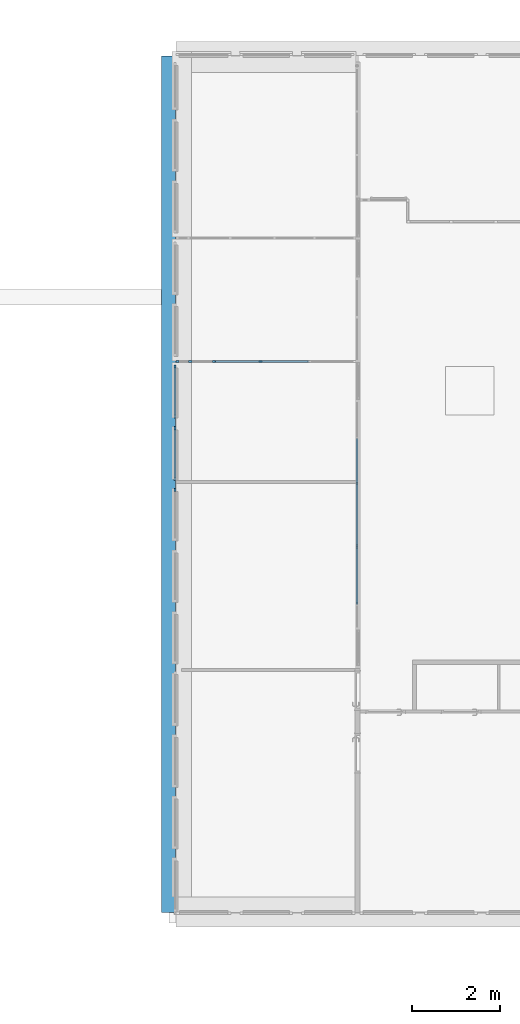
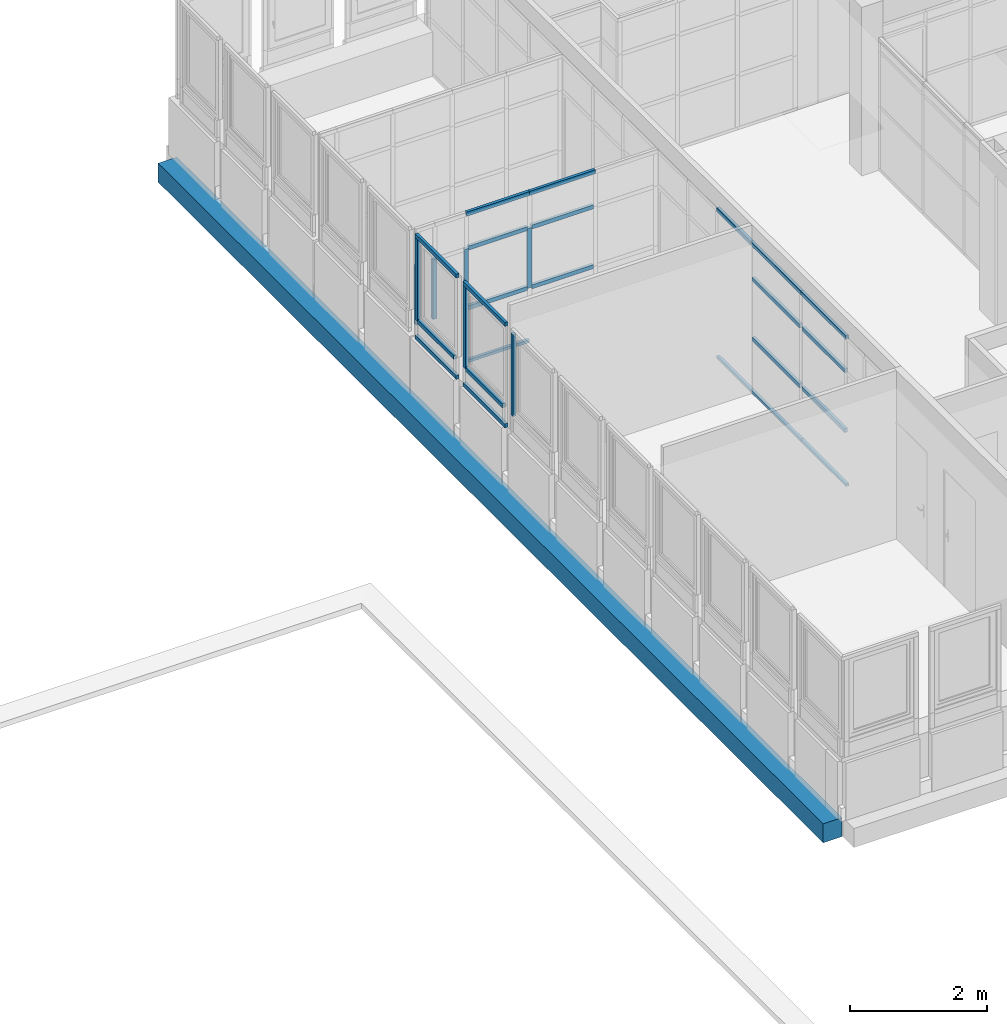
# One storey, part 6 of 97: 30 members, 1 beam, 5 elements without a shape of their own.
"""IFC4 building model written with IfcOpenShell, lengths in metres."""

from ifc_helpers import new_model, entity, si_unit, converted_unit, derived_unit, direction, frame, origin, place, context, subcontext, project, spatial, indexed_curve, outline, extrude, source, transform, mapped, material, type_object, type_shapes, element, aggregate, save


model = new_model("IFC4")

# Units and contexts
model_context = context("Model", 3, precision=1e-05, world=origin(), true_north=direction((6.12303176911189e-17, 1.0)))
body_context = subcontext(model_context, "Body", "Model", "MODEL_VIEW")
ifc_project = project(units=[si_unit("LENGTHUNIT", "METRE"), si_unit("AREAUNIT", "SQUARE_METRE"), si_unit("VOLUMEUNIT", "CUBIC_METRE"), converted_unit("PLANEANGLEUNIT", "DEGREE", entity("IfcRatioMeasure", 0.0174532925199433), si_unit("PLANEANGLEUNIT", "RADIAN"), dimensions=[0, 0, 0, 0, 0, 0, 0]), si_unit("MASSUNIT", "GRAM", prefix="KILO"), derived_unit("MASSDENSITYUNIT", [(si_unit("MASSUNIT", "GRAM", prefix="KILO"), 1), (si_unit("LENGTHUNIT", "METRE"), -3)]), derived_unit("MOMENTOFINERTIAUNIT", [(si_unit("LENGTHUNIT", "METRE"), 4)]), si_unit("TIMEUNIT", "SECOND"), si_unit("FREQUENCYUNIT", "HERTZ"), si_unit("THERMODYNAMICTEMPERATUREUNIT", "DEGREE_CELSIUS"), derived_unit("THERMALTRANSMITTANCEUNIT", [(si_unit("MASSUNIT", "GRAM", prefix="KILO"), 1), (si_unit("THERMODYNAMICTEMPERATUREUNIT", "KELVIN"), -1), (si_unit("TIMEUNIT", "SECOND"), -3)]), derived_unit("VOLUMETRICFLOWRATEUNIT", [(si_unit("LENGTHUNIT", "METRE"), 3), (si_unit("TIMEUNIT", "SECOND"), -1)]), si_unit("ELECTRICCURRENTUNIT", "AMPERE"), si_unit("ELECTRICVOLTAGEUNIT", "VOLT"), si_unit("POWERUNIT", "WATT"), si_unit("FORCEUNIT", "NEWTON", prefix="KILO"), si_unit("ILLUMINANCEUNIT", "LUX"), si_unit("LUMINOUSFLUXUNIT", "LUMEN"), si_unit("LUMINOUSINTENSITYUNIT", "CANDELA"), derived_unit("USERDEFINED", [(si_unit("MASSUNIT", "GRAM", prefix="KILO"), -1), (si_unit("LENGTHUNIT", "METRE"), -2), (si_unit("TIMEUNIT", "SECOND"), 3), (si_unit("LUMINOUSFLUXUNIT", "LUMEN"), 1)]), derived_unit("LINEARVELOCITYUNIT", [(si_unit("LENGTHUNIT", "METRE"), 1), (si_unit("TIMEUNIT", "SECOND"), -1)]), si_unit("PRESSUREUNIT", "PASCAL"), derived_unit("USERDEFINED", [(si_unit("LENGTHUNIT", "METRE"), -2), (si_unit("MASSUNIT", "GRAM", prefix="KILO"), 1), (si_unit("TIMEUNIT", "SECOND"), -2)]), derived_unit("LINEARFORCEUNIT", [(si_unit("MASSUNIT", "GRAM", prefix="KILO"), 1), (si_unit("LENGTHUNIT", "METRE"), 1), (si_unit("TIMEUNIT", "SECOND"), -2), (si_unit("LENGTHUNIT", "METRE"), -1)]), derived_unit("PLANARFORCEUNIT", [(si_unit("MASSUNIT", "GRAM", prefix="KILO"), 1), (si_unit("LENGTHUNIT", "METRE"), 1), (si_unit("TIMEUNIT", "SECOND"), -2), (si_unit("LENGTHUNIT", "METRE"), -2)])], contexts=[model_context])

# Site, building, storey
site_placement = place(None, origin())
site = spatial("IfcSite", under=ifc_project, at=site_placement, Name="Default", CompositionType="ELEMENT")
building_placement = place(site_placement, origin())
building = spatial("IfcBuilding", under=site, at=building_placement, Name="HOTEL CONSULAIRE BOULOGNE SUR MER", CompositionType="ELEMENT")
storey_placement = place(building_placement, frame((0.0, 0.0, 3.62152697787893)))
storey = spatial("IfcBuildingStorey", under=building, at=storey_placement, Name="Niveau 1", CompositionType="ELEMENT", Elevation=3.62152697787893)

# Curtain wall, members
curtain_wall_type = type_object("IfcCurtainWallType", Name="Mur-rideau:Simple panneau", PredefinedType="NOTDEFINED")
curtain_wall_1_placement = place(storey_placement, frame((0.0, 0.0, -3.62152697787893)))
curtain_wall_1 = element("IfcCurtainWall", 1, at=curtain_wall_1_placement, inside=storey, type_object=curtain_wall_type, Name="Mur-rideau:Simple panneau", ObjectType="Mur-rideau:Simple panneau", PredefinedType="NOTDEFINED")
ifc_material_1 = material(Name="PVC - Blanc", Category="Plastique")
member_type_1 = type_object("IfcMemberType", Name="Meneau rectangulaire:50 x 35", PredefinedType="MULLION", material=ifc_material_1)
shared_shape_1 = source(origin(), body_context, "Body", "SweptSolid", [
    extrude(outline(indexed_curve([(-0.025, -0.035), (0.025, -0.035), (0.025, 0.035), (-0.025, 0.035), (-0.025, -0.035)], self_intersect=False)), frame((-0.035, -0.025, -1.20000000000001), z_axis=(0.0, 0.0, 1.0), x_axis=(0.0, -1.0, 0.0)), (0.0, 0.0, 1.0), 1.20000000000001),
])
type_shapes(member_type_1, [shared_shape_1])
member_1_placement = place(storey_placement, frame((-13.7870998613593, -18.3114499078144, 0.791612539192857), z_axis=(0.0, -1.0, 0.0), x_axis=(0.0, 0.0, -1.0)))
member_1 = element("IfcMember", 2, at=member_1_placement, type_object=member_type_1, material=ifc_material_1, Name="Meneau rectangulaire:50 x 35", ObjectType="Meneau rectangulaire:50 x 35", PredefinedType="MULLION", context=body_context, shape_type="MappedRepresentation", body=[
    mapped(shared_shape_1, transform((0.0, 0.0, 0.0), scale=1.0)),
])
member_type_2 = type_object("IfcMemberType", Name="Meneau rectangulaire:50 x 35", PredefinedType="MULLION", material=ifc_material_1)
shared_shape_2 = source(origin(), body_context, "Body", "SweptSolid", [
    extrude(outline(indexed_curve([(-0.025, -0.035), (0.025, -0.035), (0.025, 0.035), (-0.025, 0.035), (-0.025, -0.035)], self_intersect=False)), frame((0.0, -0.025, -1.06000000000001), z_axis=(0.0, 0.0, 1.0), x_axis=(0.0, -1.0, 0.0)), (0.0, 0.0, 1.0), 1.06000000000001),
])
type_shapes(member_type_2, [shared_shape_2])
member_2_placement = place(storey_placement, frame((-13.7870998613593, -17.1814499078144, 1.13961253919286), z_axis=(0.0, 1.0, 0.0), x_axis=(0.0, 0.0, 1.0)))
member_2 = element("IfcMember", 3, at=member_2_placement, type_object=member_type_2, material=ifc_material_1, Name="Meneau rectangulaire:50 x 35", ObjectType="Meneau rectangulaire:50 x 35", PredefinedType="MULLION", context=body_context, shape_type="MappedRepresentation", body=[
    mapped(shared_shape_2, transform((0.0, 0.0, 0.0), scale=1.0)),
])

# Beam
ifc_material_2 = material(Name="Béton - Béton coulé sur place", Category="Béton")
beam_type = type_object("IfcBeamType", Name="Poutre rectangulaire - Béton:320x340", PredefinedType="BEAM", material=ifc_material_2)
shared_shape_3 = source(origin(), body_context, "Body", "SweptSolid", [
    extrude(outline(indexed_curve([(-0.127039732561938, -0.225140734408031), (0.192960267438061, -0.225140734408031), (0.192960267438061, 0.114859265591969), (-0.0659205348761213, 0.114859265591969), (-0.0659205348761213, 0.110281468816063), (-0.127039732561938, 0.110281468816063), (-0.127039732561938, -0.225140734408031)], self_intersect=False)), frame((-13.9310203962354, -29.5540671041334, 3.27624550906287), z_axis=(0.0, 1.0, 0.0), x_axis=(-1.0, 0.0, 0.0)), (0.0, 0.0, 1.0), 19.4694347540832),
])
type_shapes(beam_type, [shared_shape_3])
beam_placement = place(storey_placement, frame((0.0, 0.0, -3.62152697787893)))
element("IfcBeam", 4, at=beam_placement, inside=storey, type_object=beam_type, material=ifc_material_2, Name="Poutre rectangulaire - Béton:320x340", ObjectType="Poutre rectangulaire - Béton:320x340", PredefinedType="BEAM", context=body_context, shape_type="MappedRepresentation", body=[
    mapped(shared_shape_3, transform((0.0, 0.0, 0.0), scale=1.0)),
])

# Curtain wall, members
curtain_wall_2_placement = place(storey_placement, frame((0.0, 0.0, -3.62152697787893)))
curtain_wall_2 = element("IfcCurtainWall", 5, at=curtain_wall_2_placement, inside=storey, type_object=curtain_wall_type, Name="Mur-rideau:Simple panneau", ObjectType="Mur-rideau:Simple panneau", PredefinedType="NOTDEFINED")
member_type_3 = type_object("IfcMemberType", Name="Meneau rectangulaire:50 x 35", PredefinedType="MULLION", material=ifc_material_1)
shared_shape_4 = source(origin(), body_context, "Body", "SweptSolid", [
    extrude(outline(indexed_curve([(-0.025, -0.035), (0.025, -0.035), (0.025, 0.035), (-0.025, 0.035), (-0.025, -0.035)], self_intersect=False)), frame((-0.035, -0.025, -1.22588470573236), z_axis=(0.0, 0.0, 1.0), x_axis=(0.0, -1.0, 0.0)), (0.0, 0.0, 1.0), 1.22588470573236),
])
type_shapes(member_type_3, [shared_shape_4])
member_3_placement = place(storey_placement, frame((-13.7870998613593, -18.5114499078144, 2.67047302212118), z_axis=(0.0, 1.0, 0.0), x_axis=(0.0, 0.0, 1.0)))
member_3 = element("IfcMember", 6, at=member_3_placement, type_object=member_type_3, material=ifc_material_1, Name="Meneau rectangulaire:50 x 35", ObjectType="Meneau rectangulaire:50 x 35", PredefinedType="MULLION", context=body_context, shape_type="MappedRepresentation", body=[
    mapped(shared_shape_4, transform((0.0, 0.0, 0.0), scale=1.0)),
])
member_type_4 = type_object("IfcMemberType", Name="Meneau rectangulaire:50 x 35", PredefinedType="MULLION", material=ifc_material_1)
shared_shape_5 = source(origin(), body_context, "Body", "SweptSolid", [
    extrude(outline(indexed_curve([(-0.025, -0.035), (0.025, -0.035), (0.025, 0.035), (-0.025, 0.035), (-0.025, -0.035)], self_intersect=False)), frame((-0.035, -0.025, -1.22588470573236), z_axis=(0.0, 0.0, 1.0), x_axis=(0.0, -1.0, 0.0)), (0.0, 0.0, 1.0), 1.22588470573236),
])
type_shapes(member_type_4, [shared_shape_5])
member_4_placement = place(storey_placement, frame((-13.7870998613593, -19.7373346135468, 0.791612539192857), z_axis=(0.0, -1.0, 0.0), x_axis=(0.0, 0.0, -1.0)))
member_4 = element("IfcMember", 7, at=member_4_placement, type_object=member_type_4, material=ifc_material_1, Name="Meneau rectangulaire:50 x 35", ObjectType="Meneau rectangulaire:50 x 35", PredefinedType="MULLION", context=body_context, shape_type="MappedRepresentation", body=[
    mapped(shared_shape_5, transform((0.0, 0.0, 0.0), scale=1.0)),
])
member_type_5 = type_object("IfcMemberType", Name="Meneau rectangulaire:50 x 35", PredefinedType="MULLION", material=ifc_material_1)
shared_shape_6 = source(origin(), body_context, "Body", "SweptSolid", [
    extrude(outline(indexed_curve([(-0.025, -0.035), (0.025, -0.035), (0.025, 0.035), (-0.025, 0.035), (-0.025, -0.035)], self_intersect=False)), frame((0.0, -0.025, -1.08588470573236), z_axis=(0.0, 0.0, 1.0), x_axis=(0.0, -1.0, 0.0)), (0.0, 0.0, 1.0), 1.08588470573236),
])
type_shapes(member_type_5, [shared_shape_6])
member_5_placement = place(storey_placement, frame((-13.7870998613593, -18.5814499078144, 1.13961253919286), z_axis=(0.0, 1.0, 0.0), x_axis=(0.0, 0.0, 1.0)))
member_5 = element("IfcMember", 8, at=member_5_placement, type_object=member_type_5, material=ifc_material_1, Name="Meneau rectangulaire:50 x 35", ObjectType="Meneau rectangulaire:50 x 35", PredefinedType="MULLION", context=body_context, shape_type="MappedRepresentation", body=[
    mapped(shared_shape_6, transform((0.0, 0.0, 0.0), scale=1.0)),
])
member_type_6 = type_object("IfcMemberType", Name="Meneau rectangulaire:50 x 35", PredefinedType="MULLION", material=ifc_material_1)
shared_shape_7 = source(origin(), body_context, "Body", "SweptSolid", [
    extrude(outline(indexed_curve([(-0.025, -0.035), (0.025, -0.035), (0.025, 0.035), (-0.025, 0.035), (-0.025, -0.035)], self_intersect=False)), frame((-0.035, -0.025, -1.46086048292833), z_axis=(0.0, 0.0, 1.0), x_axis=(0.0, -1.0, 0.0)), (0.0, 0.0, 1.0), 1.46086048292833),
])
type_shapes(member_type_6, [shared_shape_7])
member_6_placement = place(storey_placement, frame((-13.7870998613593, -18.5114499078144, 1.13961253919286), z_axis=(0.0, 0.0, -1.0), x_axis=(0.0, 1.0, 0.0)))
member_6 = element("IfcMember", 9, at=member_6_placement, type_object=member_type_6, material=ifc_material_1, Name="Meneau rectangulaire:50 x 35", ObjectType="Meneau rectangulaire:50 x 35", PredefinedType="MULLION", context=body_context, shape_type="MappedRepresentation", body=[
    mapped(shared_shape_7, transform((0.0, 0.0, 0.0), scale=1.0)),
])
aggregate(curtain_wall_2, [member_3, member_4, member_5, member_6])

# Member
member_7_placement = place(storey_placement, frame((-13.7870998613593, -17.1114499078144, 1.13961253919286), z_axis=(0.0, 0.0, -1.0), x_axis=(0.0, 1.0, 0.0)))
member_7 = element("IfcMember", 10, at=member_7_placement, type_object=member_type_6, material=ifc_material_1, Name="Meneau rectangulaire:50 x 35", ObjectType="Meneau rectangulaire:50 x 35", PredefinedType="MULLION", context=body_context, shape_type="MappedRepresentation", body=[
    mapped(shared_shape_7, transform((0.0, 0.0, 0.0), scale=1.0)),
])

# Curtain wall, member
curtain_wall_3_placement = place(storey_placement, frame((0.0, 0.0, -3.62152697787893)))
curtain_wall_3 = element("IfcCurtainWall", 11, at=curtain_wall_3_placement, inside=storey, type_object=curtain_wall_type, Name="Mur-rideau:Simple panneau", ObjectType="Mur-rideau:Simple panneau", PredefinedType="NOTDEFINED")
member_8_placement = place(storey_placement, frame((-13.7870998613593, -19.9114499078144, 1.13961253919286), z_axis=(0.0, 0.0, -1.0), x_axis=(0.0, 1.0, 0.0)))
member_8 = element("IfcMember", 12, at=member_8_placement, type_object=member_type_6, material=ifc_material_1, Name="Meneau rectangulaire:50 x 35", ObjectType="Meneau rectangulaire:50 x 35", PredefinedType="MULLION", context=body_context, shape_type="MappedRepresentation", body=[
    mapped(shared_shape_7, transform((0.0, 0.0, 0.0), scale=1.0)),
])
aggregate(curtain_wall_3, [member_8])

# Member
member_type_7 = type_object("IfcMemberType", Name="Meneau rectangulaire:50 x 35", PredefinedType="MULLION", material=ifc_material_1)
shared_shape_8 = source(origin(), body_context, "Body", "SweptSolid", [
    extrude(outline(indexed_curve([(-0.025, -0.035), (0.025, -0.035), (0.025, 0.035), (-0.025, 0.035), (-0.025, -0.035)], self_intersect=False)), frame((-0.035, -0.025, -1.20000000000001), z_axis=(0.0, 0.0, 1.0), x_axis=(0.0, -1.0, 0.0)), (0.0, 0.0, 1.0), 1.20000000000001),
])
type_shapes(member_type_7, [shared_shape_8])
member_9_placement = place(storey_placement, frame((-13.7870998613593, -17.1114499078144, 2.67047302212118), z_axis=(0.0, 1.0, 0.0), x_axis=(0.0, 0.0, 1.0)))
member_9 = element("IfcMember", 13, at=member_9_placement, type_object=member_type_7, material=ifc_material_1, Name="Meneau rectangulaire:50 x 35", ObjectType="Meneau rectangulaire:50 x 35", PredefinedType="MULLION", context=body_context, shape_type="MappedRepresentation", body=[
    mapped(shared_shape_8, transform((0.0, 0.0, 0.0), scale=1.0)),
])

aggregate(curtain_wall_1, [member_9, member_1, member_2, member_7])

# Curtain wall, members
curtain_wall_4_placement = place(storey_placement, frame((0.0, 0.0, -3.62152697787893)))
curtain_wall_4 = element("IfcCurtainWall", 14, at=curtain_wall_4_placement, inside=storey, type_object=curtain_wall_type, Name="Mur-rideau:Simple panneau", ObjectType="Mur-rideau:Simple panneau", PredefinedType="NOTDEFINED")
ifc_material_3 = material(Name="PVC, souple", Category="Plastique")
member_type_8 = type_object("IfcMemberType", Name="Meneau rectangulaire:50 x 35 pvc gris", PredefinedType="MULLION", material=ifc_material_3)
shared_shape_9 = source(origin(), body_context, "Body", "SweptSolid", [
    extrude(outline(indexed_curve([(-0.025, -0.035), (0.025, -0.035), (0.025, 0.035), (-0.025, 0.035), (-0.025, -0.035)], self_intersect=False)), frame((0.0, -0.025, -1.39), z_axis=(0.0, 0.0, 1.0), x_axis=(0.0, -1.0, 0.0)), (0.0, 0.0, 1.0), 1.39),
])
type_shapes(member_type_8, [shared_shape_9])
member_10_placement = place(storey_placement, frame((-9.64962464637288, -19.8102596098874, 0.976960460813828), z_axis=(0.0, 1.0, 0.0), x_axis=(0.0, 0.0, 1.0)))
member_10 = element("IfcMember", 15, at=member_10_placement, type_object=member_type_8, material=ifc_material_3, Name="Meneau rectangulaire:50 x 35 pvc gris", ObjectType="Meneau rectangulaire:50 x 35 pvc gris", PredefinedType="MULLION", context=body_context, shape_type="MappedRepresentation", body=[
    mapped(shared_shape_9, transform((0.0, 0.0, 0.0), scale=1.0)),
])
member_11_placement = place(storey_placement, frame((-9.64962464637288, -19.8102596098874, 2.04596046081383), z_axis=(0.0, 1.0, 0.0), x_axis=(0.0, 0.0, 1.0)))
member_11 = element("IfcMember", 16, at=member_11_placement, type_object=member_type_8, material=ifc_material_3, Name="Meneau rectangulaire:50 x 35 pvc gris", ObjectType="Meneau rectangulaire:50 x 35 pvc gris", PredefinedType="MULLION", context=body_context, shape_type="MappedRepresentation", body=[
    mapped(shared_shape_9, transform((0.0, 0.0, 0.0), scale=1.0)),
])
member_type_9 = type_object("IfcMemberType", Name="Meneau rectangulaire:50 x 35 pvc gris", PredefinedType="MULLION", material=ifc_material_3)
shared_shape_10 = source(origin(), body_context, "Body", "SweptSolid", [
    extrude(outline(indexed_curve([(-0.025, -0.035), (0.025, -0.035), (0.025, 0.035), (-0.025, 0.035), (-0.025, -0.035)], self_intersect=False)), frame((0.0, -0.025, -1.25), z_axis=(0.0, 0.0, 1.0), x_axis=(0.0, -1.0, 0.0)), (0.0, 0.0, 1.0), 1.25),
])
type_shapes(member_type_9, [shared_shape_10])
member_12_placement = place(storey_placement, frame((-9.64962464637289, -21.2702596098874, 0.976960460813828), z_axis=(0.0, 1.0, 0.0), x_axis=(0.0, 0.0, 1.0)))
member_12 = element("IfcMember", 17, at=member_12_placement, type_object=member_type_9, material=ifc_material_3, Name="Meneau rectangulaire:50 x 35 pvc gris", ObjectType="Meneau rectangulaire:50 x 35 pvc gris", PredefinedType="MULLION", context=body_context, shape_type="MappedRepresentation", body=[
    mapped(shared_shape_10, transform((0.0, 0.0, 0.0), scale=1.0)),
])
member_13_placement = place(storey_placement, frame((-9.64962464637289, -21.2702596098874, 2.04596046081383), z_axis=(0.0, 1.0, 0.0), x_axis=(0.0, 0.0, 1.0)))
member_13 = element("IfcMember", 18, at=member_13_placement, type_object=member_type_9, material=ifc_material_3, Name="Meneau rectangulaire:50 x 35 pvc gris", ObjectType="Meneau rectangulaire:50 x 35 pvc gris", PredefinedType="MULLION", context=body_context, shape_type="MappedRepresentation", body=[
    mapped(shared_shape_10, transform((0.0, 0.0, 0.0), scale=1.0)),
])
member_type_10 = type_object("IfcMemberType", Name="Meneau rectangulaire:50 x 35 pvc gris", PredefinedType="MULLION", material=ifc_material_3)
shared_shape_11 = source(origin(), body_context, "Body", "SweptSolid", [
    extrude(outline(indexed_curve([(-0.025, -0.035), (0.025, -0.035), (0.025, 0.035), (-0.025, 0.035), (-0.025, -0.035)], self_intersect=False)), frame((-0.035, -0.025, -1.0), z_axis=(0.0, 0.0, 1.0), x_axis=(0.0, -1.0, 0.0)), (0.0, 0.0, 1.0), 0.999999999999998),
])
type_shapes(member_type_10, [shared_shape_11])
member_14_placement = place(storey_placement, frame((-9.64962464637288, -18.7752596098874, 2.69696046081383), z_axis=(0.0, 1.0, 0.0), x_axis=(0.0, 0.0, 1.0)))
member_14 = element("IfcMember", 19, at=member_14_placement, type_object=member_type_10, material=ifc_material_3, Name="Meneau rectangulaire:50 x 35 pvc gris", ObjectType="Meneau rectangulaire:50 x 35 pvc gris", PredefinedType="MULLION", context=body_context, shape_type="MappedRepresentation", body=[
    mapped(shared_shape_11, transform((0.0, 0.0, 0.0), scale=1.0)),
])
member_type_11 = type_object("IfcMemberType", Name="Meneau rectangulaire:50 x 35 pvc gris", PredefinedType="MULLION", material=ifc_material_3)
shared_shape_12 = source(origin(), body_context, "Body", "SweptSolid", [
    extrude(outline(indexed_curve([(-0.025, -0.035), (0.025, -0.035), (0.025, 0.035), (-0.025, 0.035), (-0.025, -0.035)], self_intersect=False)), frame((-0.035, -0.025, -1.46), z_axis=(0.0, 0.0, 1.0), x_axis=(0.0, -1.0, 0.0)), (0.0, 0.0, 1.0), 1.46),
])
type_shapes(member_type_11, [shared_shape_12])
member_15_placement = place(storey_placement, frame((-9.64962464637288, -19.7752596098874, 2.69696046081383), z_axis=(0.0, 1.0, 0.0), x_axis=(0.0, 0.0, 1.0)))
member_15 = element("IfcMember", 20, at=member_15_placement, type_object=member_type_11, material=ifc_material_3, Name="Meneau rectangulaire:50 x 35 pvc gris", ObjectType="Meneau rectangulaire:50 x 35 pvc gris", PredefinedType="MULLION", context=body_context, shape_type="MappedRepresentation", body=[
    mapped(shared_shape_12, transform((0.0, 0.0, 0.0), scale=1.0)),
])
member_type_12 = type_object("IfcMemberType", Name="Meneau rectangulaire:50 x 35 pvc gris", PredefinedType="MULLION", material=ifc_material_3)
shared_shape_13 = source(origin(), body_context, "Body", "SweptSolid", [
    extrude(outline(indexed_curve([(-0.025, -0.035), (0.025, -0.035), (0.025, 0.035), (-0.025, 0.035), (-0.025, -0.035)], self_intersect=False)), frame((-0.035, -0.025, -1.32), z_axis=(0.0, 0.0, 1.0), x_axis=(0.0, -1.0, 0.0)), (0.0, 0.0, 1.0), 1.32),
])
type_shapes(member_type_12, [shared_shape_13])
member_16_placement = place(storey_placement, frame((-9.64962464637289, -21.2352596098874, 2.69696046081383), z_axis=(0.0, 1.0, 0.0), x_axis=(0.0, 0.0, 1.0)))
member_16 = element("IfcMember", 21, at=member_16_placement, type_object=member_type_12, material=ifc_material_3, Name="Meneau rectangulaire:50 x 35 pvc gris", ObjectType="Meneau rectangulaire:50 x 35 pvc gris", PredefinedType="MULLION", context=body_context, shape_type="MappedRepresentation", body=[
    mapped(shared_shape_13, transform((0.0, 0.0, 0.0), scale=1.0)),
])
member_type_13 = type_object("IfcMemberType", Name="Meneau rectangulaire:50 x 25mm pvc gris", PredefinedType="MULLION", material=ifc_material_3)
shared_shape_14 = source(origin(), body_context, "Body", "SweptSolid", [
    extrude(outline(indexed_curve([(-0.025, -0.025), (0.025, -0.025), (0.025, 0.025), (-0.025, 0.025), (-0.025, -0.025)], self_intersect=False)), frame((-0.025, -0.025, -1.32), z_axis=(0.0, 0.0, 1.0), x_axis=(0.0, -1.0, 0.0)), (0.0, 0.0, 1.0), 1.32),
])
type_shapes(member_type_13, [shared_shape_14])
member_17_placement = place(storey_placement, frame((-9.64962464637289, -22.5552596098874, 0.0), z_axis=(0.0, -1.0, 0.0), x_axis=(0.0, 0.0, -1.0)))
member_17 = element("IfcMember", 22, at=member_17_placement, type_object=member_type_13, material=ifc_material_3, Name="Meneau rectangulaire:50 x 25mm pvc gris", ObjectType="Meneau rectangulaire:50 x 25mm pvc gris", PredefinedType="MULLION", context=body_context, shape_type="MappedRepresentation", body=[
    mapped(shared_shape_14, transform((0.0, 0.0, 0.0), scale=1.0)),
])
member_type_14 = type_object("IfcMemberType", Name="Meneau rectangulaire:50 x 25mm pvc gris", PredefinedType="MULLION", material=ifc_material_3)
shared_shape_15 = source(origin(), body_context, "Body", "SweptSolid", [
    extrude(outline(indexed_curve([(-0.025, -0.025), (0.025, -0.025), (0.025, 0.025), (-0.025, 0.025), (-0.025, -0.025)], self_intersect=False)), frame((-0.025, -0.025, -1.46), z_axis=(0.0, 0.0, 1.0), x_axis=(0.0, -1.0, 0.0)), (0.0, 0.0, 1.0), 1.46),
])
type_shapes(member_type_14, [shared_shape_15])
member_18_placement = place(storey_placement, frame((-9.64962464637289, -21.2352596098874, 0.0), z_axis=(0.0, -1.0, 0.0), x_axis=(0.0, 0.0, -1.0)))
member_18 = element("IfcMember", 23, at=member_18_placement, type_object=member_type_14, material=ifc_material_3, Name="Meneau rectangulaire:50 x 25mm pvc gris", ObjectType="Meneau rectangulaire:50 x 25mm pvc gris", PredefinedType="MULLION", context=body_context, shape_type="MappedRepresentation", body=[
    mapped(shared_shape_15, transform((0.0, 0.0, 0.0), scale=1.0)),
])
member_type_15 = type_object("IfcMemberType", Name="Meneau rectangulaire:50 x 25mm pvc gris", PredefinedType="MULLION", material=ifc_material_3)
shared_shape_16 = source(origin(), body_context, "Body", "SweptSolid", [
    extrude(outline(indexed_curve([(-0.025, -0.025), (0.025, -0.025), (0.025, 0.025), (-0.025, 0.025), (-0.025, -0.025)], self_intersect=False)), frame((-0.025, -0.025, -1.0), z_axis=(0.0, 0.0, 1.0), x_axis=(0.0, -1.0, 0.0)), (0.0, 0.0, 1.0), 0.999999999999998),
])
type_shapes(member_type_15, [shared_shape_16])
member_19_placement = place(storey_placement, frame((-9.64962464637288, -19.7752596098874, 0.0), z_axis=(0.0, -1.0, 0.0), x_axis=(0.0, 0.0, -1.0)))
member_19 = element("IfcMember", 24, at=member_19_placement, type_object=member_type_15, material=ifc_material_3, Name="Meneau rectangulaire:50 x 25mm pvc gris", ObjectType="Meneau rectangulaire:50 x 25mm pvc gris", PredefinedType="MULLION", context=body_context, shape_type="MappedRepresentation", body=[
    mapped(shared_shape_16, transform((0.0, 0.0, 0.0), scale=1.0)),
])
aggregate(curtain_wall_4, [member_10, member_12, member_11, member_13, member_14, member_15, member_16, member_17, member_18, member_19])

curtain_wall_5_placement = place(storey_placement, frame((0.0, 0.0, -3.62152697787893)))
curtain_wall_5 = element("IfcCurtainWall", 25, at=curtain_wall_5_placement, inside=storey, type_object=curtain_wall_type, Name="Mur-rideau:Simple panneau", ObjectType="Mur-rideau:Simple panneau", PredefinedType="NOTDEFINED")
member_type_16 = type_object("IfcMemberType", Name="Meneau rectangulaire:50 x 35 pvc gris", PredefinedType="MULLION", material=ifc_material_3)
shared_shape_17 = source(origin(), body_context, "Body", "SweptSolid", [
    extrude(outline(indexed_curve([(-0.025, -0.035), (0.025, -0.035), (0.025, 0.035), (-0.025, 0.035), (-0.025, -0.035)], self_intersect=False)), frame((-0.035, -0.025, -1.06647789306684), z_axis=(0.0, 0.0, 1.0), x_axis=(0.0, -1.0, 0.0)), (0.0, 0.0, 1.0), 1.06647789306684),
])
type_shapes(member_type_16, [shared_shape_17])
member_20_placement = place(storey_placement, frame((-12.9321025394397, -17.0018458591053, 2.69696046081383), z_axis=(-1.0, 0.0, 0.0), x_axis=(0.0, 0.0, 1.0)))
member_20 = element("IfcMember", 26, at=member_20_placement, type_object=member_type_16, material=ifc_material_3, Name="Meneau rectangulaire:50 x 35 pvc gris", ObjectType="Meneau rectangulaire:50 x 35 pvc gris", PredefinedType="MULLION", context=body_context, shape_type="MappedRepresentation", body=[
    mapped(shared_shape_17, transform((0.0, 0.0, 0.0), scale=1.0)),
])
member_type_17 = type_object("IfcMemberType", Name="Meneau rectangulaire:50 x 35 pvc gris", PredefinedType="MULLION", material=ifc_material_3)
shared_shape_18 = source(origin(), body_context, "Body", "SweptSolid", [
    extrude(outline(indexed_curve([(-0.025, -0.035), (0.025, -0.035), (0.025, 0.035), (-0.025, 0.035), (-0.025, -0.035)], self_intersect=False)), frame((-0.035, -0.025, -1.112), z_axis=(0.0, 0.0, 1.0), x_axis=(0.0, -1.0, 0.0)), (0.0, 0.0, 1.0), 1.112),
])
type_shapes(member_type_17, [shared_shape_18])
member_21_placement = place(storey_placement, frame((-11.8656246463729, -17.0018458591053, 2.69696046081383), z_axis=(-1.0, 0.0, 0.0), x_axis=(0.0, 0.0, 1.0)))
member_21 = element("IfcMember", 27, at=member_21_placement, type_object=member_type_17, material=ifc_material_3, Name="Meneau rectangulaire:50 x 35 pvc gris", ObjectType="Meneau rectangulaire:50 x 35 pvc gris", PredefinedType="MULLION", context=body_context, shape_type="MappedRepresentation", body=[
    mapped(shared_shape_18, transform((0.0, 0.0, 0.0), scale=1.0)),
])
member_type_18 = type_object("IfcMemberType", Name="Meneau rectangulaire:50 x 35 pvc gris", PredefinedType="MULLION", material=ifc_material_3)
shared_shape_19 = source(origin(), body_context, "Body", "SweptSolid", [
    extrude(outline(indexed_curve([(-0.025, -0.035), (0.025, -0.035), (0.025, 0.035), (-0.025, 0.035), (-0.025, -0.035)], self_intersect=False)), frame((0.0, -0.025, -0.996477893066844), z_axis=(0.0, 0.0, 1.0), x_axis=(0.0, -1.0, 0.0)), (0.0, 0.0, 1.0), 0.996477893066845),
])
type_shapes(member_type_18, [shared_shape_19])
member_22_placement = place(storey_placement, frame((-12.8971025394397, -17.0018458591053, 2.04596046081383), z_axis=(-1.0, 0.0, 0.0), x_axis=(0.0, 0.0, 1.0)))
member_22 = element("IfcMember", 28, at=member_22_placement, type_object=member_type_18, material=ifc_material_3, Name="Meneau rectangulaire:50 x 35 pvc gris", ObjectType="Meneau rectangulaire:50 x 35 pvc gris", PredefinedType="MULLION", context=body_context, shape_type="MappedRepresentation", body=[
    mapped(shared_shape_19, transform((0.0, 0.0, 0.0), scale=1.0)),
])
member_23_placement = place(storey_placement, frame((-12.8971025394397, -17.0018458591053, 0.977000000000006), z_axis=(-1.0, 0.0, 0.0), x_axis=(0.0, 0.0, 1.0)))
member_23 = element("IfcMember", 29, at=member_23_placement, type_object=member_type_18, material=ifc_material_3, Name="Meneau rectangulaire:50 x 35 pvc gris", ObjectType="Meneau rectangulaire:50 x 35 pvc gris", PredefinedType="MULLION", context=body_context, shape_type="MappedRepresentation", body=[
    mapped(shared_shape_19, transform((0.0, 0.0, 0.0), scale=1.0)),
])
member_type_19 = type_object("IfcMemberType", Name="Meneau rectangulaire:50 x 35 pvc gris", PredefinedType="MULLION", material=ifc_material_3)
shared_shape_20 = source(origin(), body_context, "Body", "SweptSolid", [
    extrude(outline(indexed_curve([(-0.025, -0.035), (0.025, -0.035), (0.025, 0.035), (-0.025, 0.035), (-0.025, -0.035)], self_intersect=False)), frame((0.0, -0.025, -1.042), z_axis=(0.0, 0.0, 1.0), x_axis=(0.0, -1.0, 0.0)), (0.0, 0.0, 1.0), 1.042),
])
type_shapes(member_type_19, [shared_shape_20])
member_24_placement = place(storey_placement, frame((-11.8306246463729, -17.0018458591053, 2.04596046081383), z_axis=(-1.0, 0.0, 0.0), x_axis=(0.0, 0.0, 1.0)))
member_24 = element("IfcMember", 30, at=member_24_placement, type_object=member_type_19, material=ifc_material_3, Name="Meneau rectangulaire:50 x 35 pvc gris", ObjectType="Meneau rectangulaire:50 x 35 pvc gris", PredefinedType="MULLION", context=body_context, shape_type="MappedRepresentation", body=[
    mapped(shared_shape_20, transform((0.0, 0.0, 0.0), scale=1.0)),
])
member_25_placement = place(storey_placement, frame((-11.8306246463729, -17.0018458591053, 0.977000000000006), z_axis=(-1.0, 0.0, 0.0), x_axis=(0.0, 0.0, 1.0)))
member_25 = element("IfcMember", 31, at=member_25_placement, type_object=member_type_19, material=ifc_material_3, Name="Meneau rectangulaire:50 x 35 pvc gris", ObjectType="Meneau rectangulaire:50 x 35 pvc gris", PredefinedType="MULLION", context=body_context, shape_type="MappedRepresentation", body=[
    mapped(shared_shape_20, transform((0.0, 0.0, 0.0), scale=1.0)),
])
member_type_20 = type_object("IfcMemberType", Name="Meneau rectangulaire:50 x 35 pvc gris", PredefinedType="MULLION", material=ifc_material_3)
shared_shape_21 = source(origin(), body_context, "Body", "SweptSolid", [
    extrude(outline(indexed_curve([(-0.025, -0.035), (0.025, -0.035), (0.025, 0.035), (-0.025, 0.035), (-0.025, -0.035)], self_intersect=False)), frame((0.0, -0.025, -1.06896046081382), z_axis=(0.0, 0.0, 1.0), x_axis=(0.0, -1.0, 0.0)), (0.0, 0.0, 1.0), 1.06896046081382),
])
type_shapes(member_type_20, [shared_shape_21])
member_26_placement = place(storey_placement, frame((-11.8656246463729, -17.0018458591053, 0.977000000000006), z_axis=(0.0, 0.0, -1.0), x_axis=(-1.0, 0.0, 0.0)))
member_26 = element("IfcMember", 32, at=member_26_placement, type_object=member_type_20, material=ifc_material_3, Name="Meneau rectangulaire:50 x 35 pvc gris", ObjectType="Meneau rectangulaire:50 x 35 pvc gris", PredefinedType="MULLION", context=body_context, shape_type="MappedRepresentation", body=[
    mapped(shared_shape_21, transform((0.0, 0.0, 0.0), scale=1.0)),
])
member_27_placement = place(storey_placement, frame((-12.9321025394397, -17.0018458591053, 0.977000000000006), z_axis=(0.0, 0.0, -1.0), x_axis=(-1.0, 0.0, 0.0)))
member_27 = element("IfcMember", 33, at=member_27_placement, type_object=member_type_20, material=ifc_material_3, Name="Meneau rectangulaire:50 x 35 pvc gris", ObjectType="Meneau rectangulaire:50 x 35 pvc gris", PredefinedType="MULLION", context=body_context, shape_type="MappedRepresentation", body=[
    mapped(shared_shape_21, transform((0.0, 0.0, 0.0), scale=1.0)),
])
member_28_placement = place(storey_placement, frame((-13.4671025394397, -17.0018458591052, 0.977000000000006), z_axis=(0.0, 0.0, -1.0), x_axis=(-1.0, 0.0, 0.0)))
member_28 = element("IfcMember", 34, at=member_28_placement, type_object=member_type_20, material=ifc_material_3, Name="Meneau rectangulaire:50 x 35 pvc gris", ObjectType="Meneau rectangulaire:50 x 35 pvc gris", PredefinedType="MULLION", context=body_context, shape_type="MappedRepresentation", body=[
    mapped(shared_shape_21, transform((0.0, 0.0, 0.0), scale=1.0)),
])
member_type_21 = type_object("IfcMemberType", Name="Meneau rectangulaire:50 x 35 pvc gris", PredefinedType="MULLION", material=ifc_material_3)
shared_shape_22 = source(origin(), body_context, "Body", "SweptSolid", [
    extrude(outline(indexed_curve([(-0.025, -0.035), (0.025, -0.035), (0.025, 0.035), (-0.025, 0.035), (-0.025, -0.035)], self_intersect=False)), frame((-0.035, -0.025, -1.06896046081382), z_axis=(0.0, 0.0, 1.0), x_axis=(0.0, -1.0, 0.0)), (0.0, 0.0, 1.0), 1.06896046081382),
])
type_shapes(member_type_21, [shared_shape_22])
member_29_placement = place(storey_placement, frame((-13.7881025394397, -17.0018458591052, 0.977000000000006), z_axis=(0.0, 0.0, -1.0), x_axis=(-1.0, 0.0, 0.0)))
member_29 = element("IfcMember", 35, at=member_29_placement, type_object=member_type_21, material=ifc_material_3, Name="Meneau rectangulaire:50 x 35 pvc gris", ObjectType="Meneau rectangulaire:50 x 35 pvc gris", PredefinedType="MULLION", context=body_context, shape_type="MappedRepresentation", body=[
    mapped(shared_shape_22, transform((0.0, 0.0, 0.0), scale=1.0)),
])
member_type_22 = type_object("IfcMemberType", Name="Meneau rectangulaire:50 x 25mm pvc gris", PredefinedType="MULLION", material=ifc_material_3)
shared_shape_23 = source(origin(), body_context, "Body", "SweptSolid", [
    extrude(outline(indexed_curve([(-0.025, -0.025), (0.025, -0.025), (0.025, 0.025), (-0.025, 0.025), (-0.025, -0.025)], self_intersect=False)), frame((-0.025, -0.025, -1.06647789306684), z_axis=(0.0, 0.0, 1.0), x_axis=(0.0, -1.0, 0.0)), (0.0, 0.0, 1.0), 1.06647789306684),
])
type_shapes(member_type_22, [shared_shape_23])
member_30_placement = place(storey_placement, frame((-11.8656246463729, -17.0018458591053, 0.0), z_axis=(1.0, 0.0, 0.0), x_axis=(0.0, 0.0, -1.0)))
member_30 = element("IfcMember", 36, at=member_30_placement, type_object=member_type_22, material=ifc_material_3, Name="Meneau rectangulaire:50 x 25mm pvc gris", ObjectType="Meneau rectangulaire:50 x 25mm pvc gris", PredefinedType="MULLION", context=body_context, shape_type="MappedRepresentation", body=[
    mapped(shared_shape_23, transform((0.0, 0.0, 0.0), scale=1.0)),
])
aggregate(curtain_wall_5, [member_20, member_21, member_22, member_24, member_23, member_25, member_26, member_27, member_28, member_29, member_30])

save(model, "model.ifc")
